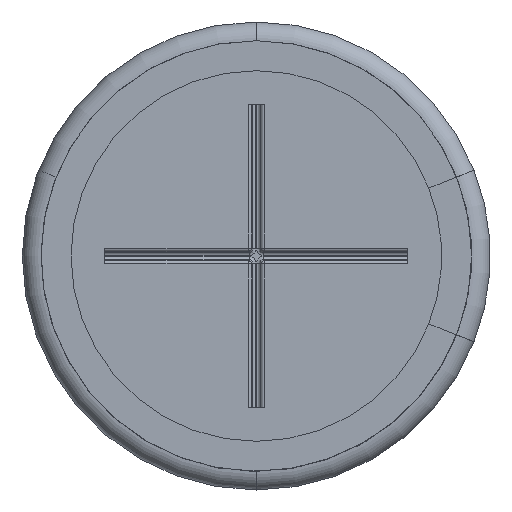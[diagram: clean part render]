
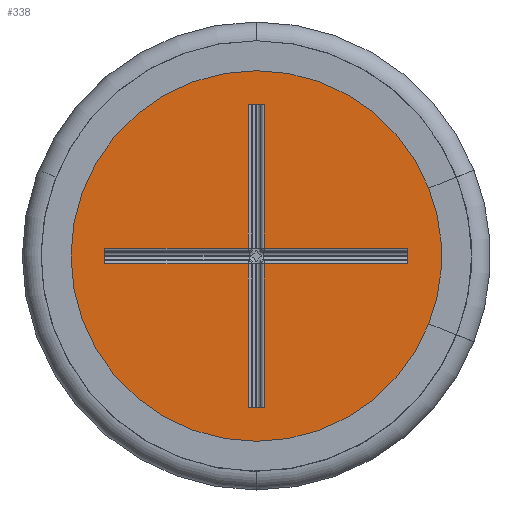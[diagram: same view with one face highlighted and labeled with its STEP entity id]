
A CAD part, front view. The second image highlights one B-rep face of the part: STEP entity #338.
In plain terms, the highlighted planar face has unit normal (0, -1, 0).
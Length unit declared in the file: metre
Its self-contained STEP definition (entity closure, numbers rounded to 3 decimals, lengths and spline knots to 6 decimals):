
#338=ADVANCED_FACE('0:42',(#792,#793),#794,.F.);
#792=FACE_BOUND('',#1390,.T.);
#793=FACE_OUTER_BOUND('',#1391,.T.);
#794=PLANE('',#1392);
#1390=EDGE_LOOP('',(#2643,#2644,#2645,#2646,#2647,#2648,#2649,#2650,#2651,#2652,#2653,#2654));
#1391=EDGE_LOOP('',(#2655,#2656));
#1392=AXIS2_PLACEMENT_3D('',#2657,#2658,#2659);
#2643=ORIENTED_EDGE('',*,*,#4228,.F.);
#2644=ORIENTED_EDGE('',*,*,#4229,.T.);
#2645=ORIENTED_EDGE('',*,*,#4230,.T.);
#2646=ORIENTED_EDGE('',*,*,#4231,.F.);
#2647=ORIENTED_EDGE('',*,*,#4232,.T.);
#2648=ORIENTED_EDGE('',*,*,#4233,.T.);
#2649=ORIENTED_EDGE('',*,*,#4234,.T.);
#2650=ORIENTED_EDGE('',*,*,#4235,.T.);
#2651=ORIENTED_EDGE('',*,*,#4236,.T.);
#2652=ORIENTED_EDGE('',*,*,#4237,.T.);
#2653=ORIENTED_EDGE('',*,*,#4238,.T.);
#2654=ORIENTED_EDGE('',*,*,#4239,.T.);
#2655=ORIENTED_EDGE('',*,*,#4221,.F.);
#2656=ORIENTED_EDGE('',*,*,#4223,.F.);
#2657=CARTESIAN_POINT('',(0.0,-0.0004,0.00575));
#2658=DIRECTION('',(-0.0,1.0,0.0));
#2659=DIRECTION('',(1.0,0.0,0.0));
#4221=EDGE_CURVE('0:360',#4933,#4931,#4935,.T.);
#4223=EDGE_CURVE('',#4931,#4933,#4937,.T.);
#4228=EDGE_CURVE('0:324',#4942,#4943,#4944,.T.);
#4229=EDGE_CURVE('0:327',#4942,#4945,#4946,.T.);
#4230=EDGE_CURVE('0:330',#4945,#4947,#4948,.T.);
#4231=EDGE_CURVE('0:333',#4949,#4947,#4950,.T.);
#4232=EDGE_CURVE('0:336',#4949,#4951,#4952,.T.);
#4233=EDGE_CURVE('0:339',#4951,#4953,#4954,.T.);
#4234=EDGE_CURVE('0:342',#4953,#4955,#4956,.T.);
#4235=EDGE_CURVE('0:345',#4955,#4957,#4958,.T.);
#4236=EDGE_CURVE('0:348',#4957,#4959,#4960,.T.);
#4237=EDGE_CURVE('0:351',#4959,#4961,#4962,.T.);
#4238=EDGE_CURVE('0:354',#4961,#4963,#4964,.T.);
#4239=EDGE_CURVE('0:357',#4963,#4943,#4965,.T.);
#4931=VERTEX_POINT('',#5883);
#4933=VERTEX_POINT('',#5885);
#4935=CIRCLE('',#5887,0.00575);
#4937=CIRCLE('',#5889,0.00575);
#4942=VERTEX_POINT('',#5894);
#4943=VERTEX_POINT('',#5895);
#4944=LINE('',#5896,#5897);
#4945=VERTEX_POINT('',#5898);
#4946=LINE('',#5899,#5900);
#4947=VERTEX_POINT('',#5901);
#4948=LINE('',#5902,#5903);
#4949=VERTEX_POINT('',#5904);
#4950=LINE('',#5905,#5906);
#4951=VERTEX_POINT('',#5907);
#4952=LINE('',#5908,#5909);
#4953=VERTEX_POINT('',#5910);
#4954=LINE('',#5911,#5912);
#4955=VERTEX_POINT('',#5913);
#4956=LINE('',#5914,#5915);
#4957=VERTEX_POINT('',#5916);
#4958=LINE('',#5917,#5918);
#4959=VERTEX_POINT('',#5919);
#4960=LINE('',#5920,#5921);
#4961=VERTEX_POINT('',#5922);
#4962=LINE('',#5923,#5924);
#4963=VERTEX_POINT('',#5925);
#4964=LINE('',#5926,#5927);
#4965=LINE('',#5928,#5929);
#5883=CARTESIAN_POINT('',(0.,-0.0004,-0.00575));
#5885=CARTESIAN_POINT('',(0.,-0.0004,0.00575));
#5887=AXIS2_PLACEMENT_3D('',#7188,#7189,#7190);
#5889=AXIS2_PLACEMENT_3D('',#7191,#7192,#7193);
#5894=CARTESIAN_POINT('',(0.000212,-0.0004,0.00405));
#5895=CARTESIAN_POINT('',(-0.000212,-0.0004,0.00405));
#5896=CARTESIAN_POINT('',(0.00015,-0.0004,0.00405));
#5897=VECTOR('',#7200,0.001);
#5898=CARTESIAN_POINT('',(0.000212,-0.0004,0.000212));
#5899=CARTESIAN_POINT('',(0.000212,-0.0004,0.00575));
#5900=VECTOR('',#7201,0.001);
#5901=CARTESIAN_POINT('',(0.00405,-0.0004,0.000212));
#5902=CARTESIAN_POINT('',(0.,-0.0004,0.000212));
#5903=VECTOR('',#7202,0.001);
#5904=CARTESIAN_POINT('',(0.00405,-0.0004,-0.000212));
#5905=CARTESIAN_POINT('',(0.00405,-0.0004,-0.00015));
#5906=VECTOR('',#7203,0.001);
#5907=CARTESIAN_POINT('',(0.000212,-0.0004,-0.000212));
#5908=CARTESIAN_POINT('',(0.,-0.0004,-0.000212));
#5909=VECTOR('',#7204,0.001);
#5910=CARTESIAN_POINT('',(0.000212,-0.0004,-0.00405));
#5911=CARTESIAN_POINT('',(0.000212,-0.0004,0.00575));
#5912=VECTOR('',#7205,0.001);
#5913=CARTESIAN_POINT('',(-0.000212,-0.0004,-0.00405));
#5914=CARTESIAN_POINT('',(0.00015,-0.0004,-0.00405));
#5915=VECTOR('',#7206,0.001);
#5916=CARTESIAN_POINT('',(-0.000212,-0.0004,-0.000212));
#5917=CARTESIAN_POINT('',(-0.000212,-0.0004,0.00575));
#5918=VECTOR('',#7207,0.001);
#5919=CARTESIAN_POINT('',(-0.00405,-0.0004,-0.000212));
#5920=CARTESIAN_POINT('',(0.,-0.0004,-0.000212));
#5921=VECTOR('',#7208,0.001);
#5922=CARTESIAN_POINT('',(-0.00405,-0.0004,0.000212));
#5923=CARTESIAN_POINT('',(-0.00405,-0.0004,-0.00015));
#5924=VECTOR('',#7209,0.001);
#5925=CARTESIAN_POINT('',(-0.000212,-0.0004,0.000212));
#5926=CARTESIAN_POINT('',(0.,-0.0004,0.000212));
#5927=VECTOR('',#7210,0.001);
#5928=CARTESIAN_POINT('',(-0.000212,-0.0004,0.00575));
#5929=VECTOR('',#7211,0.001);
#7188=CARTESIAN_POINT('',(0.0,-0.0004,0.0));
#7189=DIRECTION('',(0.0,1.0,0.0));
#7190=DIRECTION('',(0.0,0.0,-1.0));
#7191=CARTESIAN_POINT('',(0.0,-0.0004,0.0));
#7192=DIRECTION('',(0.0,1.0,0.0));
#7193=DIRECTION('',(0.0,0.0,-1.0));
#7200=DIRECTION('',(-1.0,0.,0.0));
#7201=DIRECTION('',(0.0,0.0,-1.0));
#7202=DIRECTION('',(1.0,0.0,0.));
#7203=DIRECTION('',(0.,0.,1.0));
#7204=DIRECTION('',(-1.0,0.0,0.));
#7205=DIRECTION('',(0.0,0.0,-1.0));
#7206=DIRECTION('',(-1.0,0.,0.0));
#7207=DIRECTION('',(0.0,0.0,1.0));
#7208=DIRECTION('',(-1.0,0.0,0.));
#7209=DIRECTION('',(0.,0.,1.0));
#7210=DIRECTION('',(1.0,0.0,0.));
#7211=DIRECTION('',(0.0,0.0,1.0));
